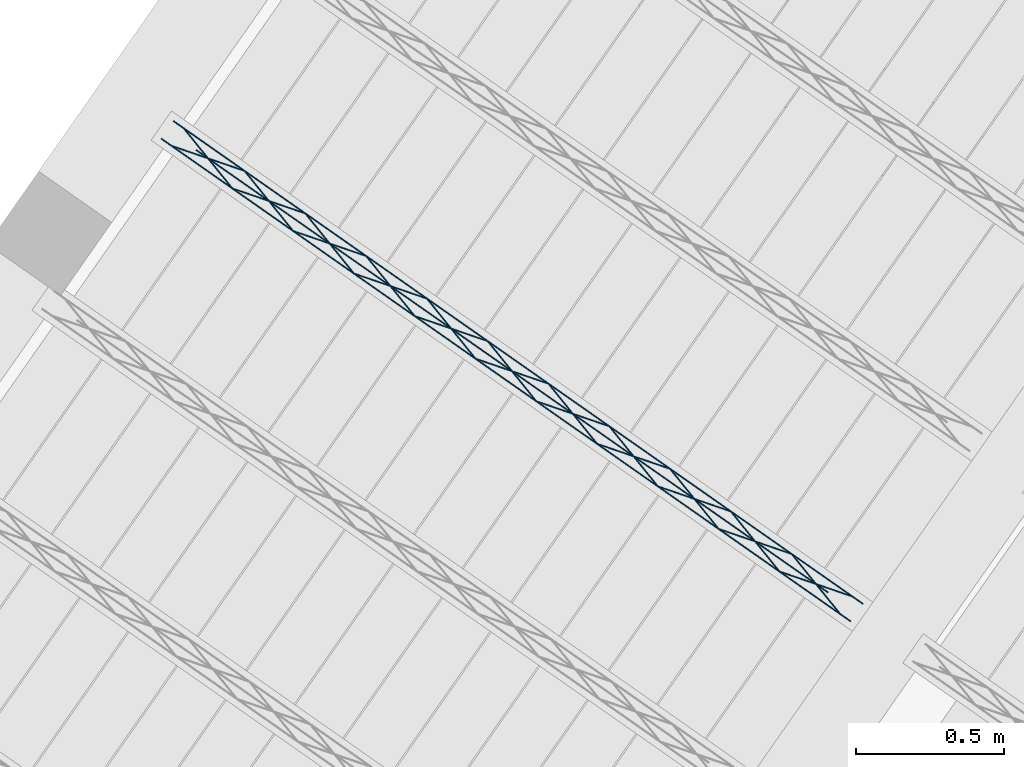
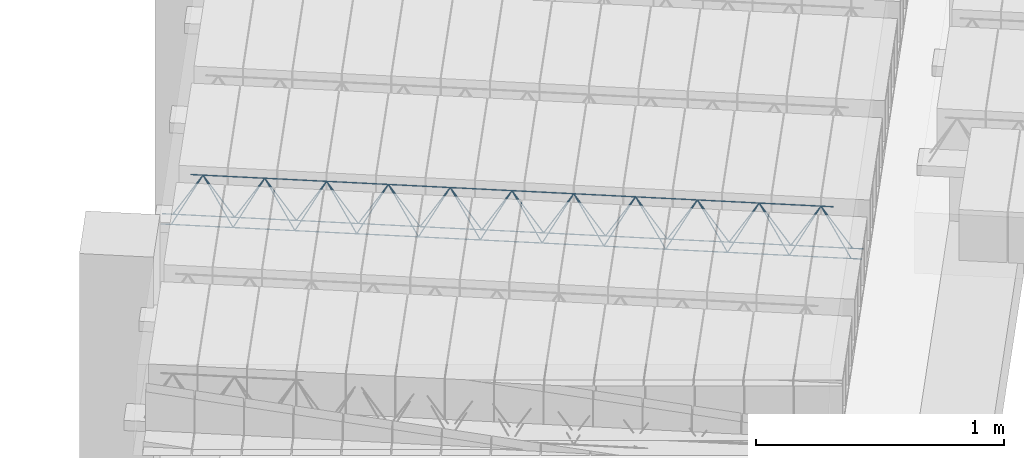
# One storey, part 18 of 80: 1 member.
"""IFC2X3 building model written with IfcOpenShell, lengths in metres."""

from ifc_helpers import new_model, entity, si_unit, converted_unit, derived_unit, direction, frame, origin, origin_2d_with_axis, place, context, subcontext, project, spatial, circle, extrude, type_object, element, save


model = new_model("IFC2X3")

# Units and contexts
model_context = context("Model", 3, precision=1e-05, world=origin(), true_north=direction((6.123031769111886e-17, 1.0)))
body_context = subcontext(model_context, "Body", "Model", "MODEL_VIEW")
ifc_project = project(units=[si_unit("LENGTHUNIT", "METRE"), si_unit("AREAUNIT", "SQUARE_METRE"), si_unit("VOLUMEUNIT", "CUBIC_METRE"), converted_unit("PLANEANGLEUNIT", "DEGREE", entity("IfcPlaneAngleMeasure", 0.017453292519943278), si_unit("PLANEANGLEUNIT", "RADIAN"), dimensions=[0, 0, 0, 0, 0, 0, 0]), si_unit("MASSUNIT", "GRAM", prefix="KILO"), derived_unit("MASSDENSITYUNIT", [(si_unit("MASSUNIT", "GRAM", prefix="KILO"), 1), (si_unit("LENGTHUNIT", "METRE"), -3)]), derived_unit("IONCONCENTRATIONUNIT", [(si_unit("MASSUNIT", "GRAM", prefix="KILO"), 1), (si_unit("LENGTHUNIT", "METRE"), -3)]), derived_unit("MOMENTOFINERTIAUNIT", [(si_unit("LENGTHUNIT", "METRE"), 4)]), si_unit("TIMEUNIT", "SECOND"), si_unit("FREQUENCYUNIT", "HERTZ"), si_unit("THERMODYNAMICTEMPERATUREUNIT", "DEGREE_CELSIUS"), derived_unit("THERMALTRANSMITTANCEUNIT", [(si_unit("MASSUNIT", "GRAM", prefix="KILO"), 1), (si_unit("THERMODYNAMICTEMPERATUREUNIT", "KELVIN"), -1), (si_unit("TIMEUNIT", "SECOND"), -3)]), derived_unit("THERMALCONDUCTANCEUNIT", [(si_unit("MASSUNIT", "GRAM", prefix="KILO"), 1), (si_unit("THERMODYNAMICTEMPERATUREUNIT", "KELVIN"), -1), (si_unit("TIMEUNIT", "SECOND"), -3), (si_unit("LENGTHUNIT", "METRE"), 1)]), derived_unit("VOLUMETRICFLOWRATEUNIT", [(si_unit("LENGTHUNIT", "METRE", prefix="DECI"), 3), (si_unit("TIMEUNIT", "SECOND"), -1)]), derived_unit("MASSFLOWRATEUNIT", [(si_unit("MASSUNIT", "GRAM", prefix="KILO"), 1), (si_unit("TIMEUNIT", "SECOND"), -1)]), derived_unit("ROTATIONALFREQUENCYUNIT", [(si_unit("TIMEUNIT", "SECOND"), -1)]), si_unit("ELECTRICCURRENTUNIT", "AMPERE"), si_unit("ELECTRICVOLTAGEUNIT", "VOLT"), si_unit("POWERUNIT", "WATT"), si_unit("FORCEUNIT", "NEWTON", prefix="KILO"), si_unit("ILLUMINANCEUNIT", "LUX"), si_unit("LUMINOUSFLUXUNIT", "LUMEN"), si_unit("LUMINOUSINTENSITYUNIT", "CANDELA"), si_unit("ENERGYUNIT", "JOULE"), derived_unit("USERDEFINED", [(si_unit("MASSUNIT", "GRAM", prefix="KILO"), -1), (si_unit("LENGTHUNIT", "METRE"), -2), (si_unit("TIMEUNIT", "SECOND"), 3), (si_unit("LUMINOUSFLUXUNIT", "LUMEN"), 1)]), derived_unit("USERDEFINED", [(si_unit("MASSUNIT", "GRAM", prefix="KILO"), 1), (si_unit("TIMEUNIT", "SECOND"), -3), (si_unit("LENGTHUNIT", "METRE"), 3), (si_unit("ELECTRICCURRENTUNIT", "AMPERE"), -2)]), derived_unit("SOUNDPOWERUNIT", [(si_unit("MASSUNIT", "GRAM", prefix="KILO"), 1), (si_unit("TIMEUNIT", "SECOND"), -3), (si_unit("LENGTHUNIT", "METRE"), 2)]), derived_unit("SOUNDPRESSUREUNIT", [(si_unit("MASSUNIT", "GRAM", prefix="KILO"), 1), (si_unit("LENGTHUNIT", "METRE"), -1), (si_unit("TIMEUNIT", "SECOND"), -2)]), derived_unit("LINEARVELOCITYUNIT", [(si_unit("LENGTHUNIT", "METRE"), 1), (si_unit("TIMEUNIT", "SECOND"), -1)]), si_unit("PRESSUREUNIT", "PASCAL"), derived_unit("USERDEFINED", [(si_unit("MASSUNIT", "GRAM", prefix="KILO"), 1), (si_unit("LENGTHUNIT", "METRE"), -2), (si_unit("TIMEUNIT", "SECOND"), -2)]), derived_unit("LINEARFORCEUNIT", [(si_unit("MASSUNIT", "GRAM", prefix="KILO"), 1), (si_unit("TIMEUNIT", "SECOND"), -2)]), derived_unit("PLANARFORCEUNIT", [(si_unit("MASSUNIT", "GRAM", prefix="KILO"), 1), (si_unit("LENGTHUNIT", "METRE"), -1), (si_unit("TIMEUNIT", "SECOND"), -2)]), derived_unit("SPECIFICHEATCAPACITYUNIT", [(si_unit("THERMODYNAMICTEMPERATUREUNIT", "KELVIN"), -1), (si_unit("LENGTHUNIT", "METRE"), 2), (si_unit("TIMEUNIT", "SECOND"), -2)]), derived_unit("HEATFLUXDENSITYUNIT", [(si_unit("MASSUNIT", "GRAM", prefix="KILO"), 1), (si_unit("TIMEUNIT", "SECOND"), -3)]), derived_unit("HEATINGVALUEUNIT", [(si_unit("LENGTHUNIT", "METRE"), 2), (si_unit("TIMEUNIT", "SECOND"), -2)]), derived_unit("VAPORPERMEABILITYUNIT", [(si_unit("LENGTHUNIT", "METRE"), -1), (si_unit("TIMEUNIT", "SECOND"), 1)]), derived_unit("DYNAMICVISCOSITYUNIT", [(si_unit("MASSUNIT", "GRAM", prefix="KILO"), 1), (si_unit("TIMEUNIT", "SECOND"), -1), (si_unit("LENGTHUNIT", "METRE"), -1)]), derived_unit("THERMALEXPANSIONCOEFFICIENTUNIT", [(si_unit("THERMODYNAMICTEMPERATUREUNIT", "KELVIN"), -1)]), derived_unit("MODULUSOFELASTICITYUNIT", [(si_unit("MASSUNIT", "GRAM", prefix="KILO"), 1), (si_unit("LENGTHUNIT", "METRE"), -1), (si_unit("TIMEUNIT", "SECOND"), -2)]), derived_unit("ISOTHERMALMOISTURECAPACITYUNIT", [(si_unit("MASSUNIT", "GRAM", prefix="KILO"), -1), (si_unit("LENGTHUNIT", "METRE"), 3)]), derived_unit("MOISTUREDIFFUSIVITYUNIT", [(si_unit("TIMEUNIT", "SECOND"), -1), (si_unit("LENGTHUNIT", "METRE"), 2)]), derived_unit("MASSPERLENGTHUNIT", [(si_unit("MASSUNIT", "GRAM", prefix="KILO"), 1), (si_unit("LENGTHUNIT", "METRE"), -1)]), derived_unit("THERMALRESISTANCEUNIT", [(si_unit("MASSUNIT", "GRAM", prefix="KILO"), -1), (si_unit("TIMEUNIT", "SECOND"), 3), (si_unit("THERMODYNAMICTEMPERATUREUNIT", "KELVIN"), 1)]), derived_unit("ACCELERATIONUNIT", [(si_unit("LENGTHUNIT", "METRE"), 1), (si_unit("TIMEUNIT", "SECOND"), -2)]), derived_unit("ANGULARVELOCITYUNIT", [(si_unit("TIMEUNIT", "SECOND"), -1), (si_unit("PLANEANGLEUNIT", "RADIAN"), 1)]), derived_unit("LINEARSTIFFNESSUNIT", [(si_unit("MASSUNIT", "GRAM", prefix="KILO"), 1), (si_unit("TIMEUNIT", "SECOND"), -2)]), derived_unit("WARPINGCONSTANTUNIT", [(si_unit("LENGTHUNIT", "METRE"), 6)]), derived_unit("LINEARMOMENTUNIT", [(si_unit("MASSUNIT", "GRAM", prefix="KILO"), 1), (si_unit("LENGTHUNIT", "METRE"), 1), (si_unit("TIMEUNIT", "SECOND"), -2)]), derived_unit("TORQUEUNIT", [(si_unit("MASSUNIT", "GRAM", prefix="KILO"), 1), (si_unit("LENGTHUNIT", "METRE"), 2), (si_unit("TIMEUNIT", "SECOND"), -2)])], contexts=[model_context])

# Site, building, storey
site_placement = place(None, origin())
site = spatial("IfcSite", under=ifc_project, at=site_placement, Name="Default", CompositionType="ELEMENT")
building_placement = place(site_placement, origin())
building = spatial("IfcBuilding", under=site, at=building_placement, CompositionType="ELEMENT")
storey_placement = place(building_placement, frame((0.0, 0.0, 95.94)))
storey = spatial("IfcBuildingStorey", under=building, at=storey_placement, Name="PB", CompositionType="ELEMENT", Elevation=95.94)

# Member
member_type = type_object("IfcMemberType", Name="Celosía (Vigueta 6 - Paño 2)", PredefinedType="NOTDEFINED")
member_placement = place(storey_placement, origin())
element("IfcMember", 1, at=member_placement, inside=storey, type_object=member_type, Name="Celosía (Vigueta 6 - Paño 2)", context=body_context, shape_type="SweptSolid", body=[
    extrude(circle(Radius=0.0025, at=origin_2d_with_axis()), frame((0.8264099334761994, 5.542649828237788, 2.8449999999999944), z_axis=(0.8191520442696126, -0.5735764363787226, 0.0), x_axis=(-0.5735764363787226, -0.8191520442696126, 0.0)), (0.0, 0.0, 1.0), 2.8366030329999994),
    extrude(circle(Radius=0.0025, at=origin_2d_with_axis()), frame((3.0737609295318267, 4.012985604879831, 3.069999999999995), z_axis=(-0.8191520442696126, 0.5735764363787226, 0.0), x_axis=(-0.5735764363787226, -0.8191520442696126, 0.0)), (0.0, 0.0, 1.0), 2.6),
    extrude(circle(Radius=0.0025, at=origin_2d_with_axis()), frame((3.1145485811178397, 3.940477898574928, 2.8449999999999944), z_axis=(-0.3145304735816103, 0.389334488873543, 0.8657304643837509), x_axis=(-0.7778747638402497, -0.6284193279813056, 0.0)), (0.0, 0.0, 1.0), 0.2598961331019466),
    extrude(circle(Radius=0.0025, at=origin_2d_with_axis()), frame((2.909760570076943, 4.08387200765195, 2.8449999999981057), z_axis=(0.47343050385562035, -0.1624017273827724, 0.8657304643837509), x_axis=(-0.3244721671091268, -0.9458952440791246, 0.0)), (0.0, 0.0, 1.0), 0.25989613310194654),
    extrude(circle(Radius=0.0025, at=origin_2d_with_axis()), frame((2.9097605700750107, 4.083872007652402, 2.8449999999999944), z_axis=(-0.3145304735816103, 0.389334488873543, 0.8657304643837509), x_axis=(-0.7778747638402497, -0.6284193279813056, 0.0)), (0.0, 0.0, 1.0), 0.2598961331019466),
    extrude(circle(Radius=0.0025, at=origin_2d_with_axis()), frame((2.70497255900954, 4.22726611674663, 2.8449999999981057), z_axis=(0.47343050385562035, -0.1624017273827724, 0.8657304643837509), x_axis=(-0.3244721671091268, -0.9458952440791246, 0.0)), (0.0, 0.0, 1.0), 0.25989613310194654),
    extrude(circle(Radius=0.0025, at=origin_2d_with_axis()), frame((2.704972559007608, 4.227266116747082, 2.8449999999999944), z_axis=(-0.3145304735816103, 0.389334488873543, 0.8657304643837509), x_axis=(-0.7778747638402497, -0.6284193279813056, 0.0)), (0.0, 0.0, 1.0), 0.2598961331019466),
    extrude(circle(Radius=0.0025, at=origin_2d_with_axis()), frame((2.500184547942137, 4.370660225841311, 2.8449999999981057), z_axis=(0.47343050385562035, -0.1624017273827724, 0.8657304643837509), x_axis=(-0.3244721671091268, -0.9458952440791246, 0.0)), (0.0, 0.0, 1.0), 0.25989613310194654),
    extrude(circle(Radius=0.0025, at=origin_2d_with_axis()), frame((2.5001845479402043, 4.370660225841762, 2.8449999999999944), z_axis=(-0.3145304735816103, 0.389334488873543, 0.8657304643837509), x_axis=(-0.7778747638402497, -0.6284193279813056, 0.0)), (0.0, 0.0, 1.0), 0.2598961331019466),
    extrude(circle(Radius=0.0025, at=origin_2d_with_axis()), frame((2.295396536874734, 4.514054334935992, 2.8449999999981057), z_axis=(0.47343050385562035, -0.1624017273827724, 0.8657304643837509), x_axis=(-0.3244721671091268, -0.9458952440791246, 0.0)), (0.0, 0.0, 1.0), 0.25989613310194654),
    extrude(circle(Radius=0.0025, at=origin_2d_with_axis()), frame((2.2953965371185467, 4.514054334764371, 2.8449999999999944), z_axis=(-0.3145304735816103, 0.389334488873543, 0.8657304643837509), x_axis=(-0.7778747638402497, -0.6284193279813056, 0.0)), (0.0, 0.0, 1.0), 0.2598961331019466),
    extrude(circle(Radius=0.0025, at=origin_2d_with_axis()), frame((2.0906085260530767, 4.657448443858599, 2.8449999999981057), z_axis=(0.47343050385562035, -0.1624017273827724, 0.8657304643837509), x_axis=(-0.3244721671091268, -0.9458952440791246, 0.0)), (0.0, 0.0, 1.0), 0.25989613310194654),
    extrude(circle(Radius=0.0025, at=origin_2d_with_axis()), frame((2.0906085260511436, 4.657448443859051, 2.8449999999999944), z_axis=(-0.3145304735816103, 0.389334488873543, 0.8657304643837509), x_axis=(-0.7778747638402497, -0.6284193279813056, 0.0)), (0.0, 0.0, 1.0), 0.2598961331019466),
    extrude(circle(Radius=0.0025, at=origin_2d_with_axis()), frame((1.8858205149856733, 4.80084255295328, 2.8449999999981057), z_axis=(0.47343050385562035, -0.1624017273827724, 0.8657304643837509), x_axis=(-0.3244721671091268, -0.9458952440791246, 0.0)), (0.0, 0.0, 1.0), 0.25989613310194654),
    extrude(circle(Radius=0.0025, at=origin_2d_with_axis()), frame((1.8858205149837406, 4.800842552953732, 2.8449999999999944), z_axis=(-0.3145304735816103, 0.389334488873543, 0.8657304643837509), x_axis=(-0.7778747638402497, -0.6284193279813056, 0.0)), (0.0, 0.0, 1.0), 0.2598961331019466),
    extrude(circle(Radius=0.0025, at=origin_2d_with_axis()), frame((1.6810325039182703, 4.9442366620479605, 2.8449999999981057), z_axis=(0.47343050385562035, -0.1624017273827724, 0.8657304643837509), x_axis=(-0.3244721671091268, -0.9458952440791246, 0.0)), (0.0, 0.0, 1.0), 0.25989613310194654),
    extrude(circle(Radius=0.0025, at=origin_2d_with_axis()), frame((1.6810325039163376, 4.944236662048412, 2.8449999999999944), z_axis=(-0.3145304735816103, 0.389334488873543, 0.8657304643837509), x_axis=(-0.7778747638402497, -0.6284193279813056, 0.0)), (0.0, 0.0, 1.0), 0.2598961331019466),
    extrude(circle(Radius=0.0025, at=origin_2d_with_axis()), frame((1.4762444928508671, 5.08763077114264, 2.8449999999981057), z_axis=(0.47343050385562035, -0.1624017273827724, 0.8657304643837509), x_axis=(-0.3244721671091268, -0.9458952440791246, 0.0)), (0.0, 0.0, 1.0), 0.25989613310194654),
    extrude(circle(Radius=0.0025, at=origin_2d_with_axis()), frame((1.4762444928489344, 5.087630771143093, 2.8449999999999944), z_axis=(-0.3145304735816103, 0.389334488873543, 0.8657304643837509), x_axis=(-0.7778747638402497, -0.6284193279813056, 0.0)), (0.0, 0.0, 1.0), 0.2598961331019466),
    extrude(circle(Radius=0.0025, at=origin_2d_with_axis()), frame((1.271456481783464, 5.231024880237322, 2.8449999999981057), z_axis=(0.47343050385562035, -0.1624017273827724, 0.8657304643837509), x_axis=(-0.3244721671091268, -0.9458952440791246, 0.0)), (0.0, 0.0, 1.0), 0.25989613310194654),
    extrude(circle(Radius=0.0025, at=origin_2d_with_axis()), frame((1.271456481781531, 5.231024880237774, 2.8449999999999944), z_axis=(-0.3145304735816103, 0.389334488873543, 0.8657304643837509), x_axis=(-0.7778747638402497, -0.6284193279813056, 0.0)), (0.0, 0.0, 1.0), 0.2598961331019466),
    extrude(circle(Radius=0.0025, at=origin_2d_with_axis()), frame((1.0666684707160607, 5.3744189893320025, 2.8449999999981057), z_axis=(0.47343050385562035, -0.1624017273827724, 0.8657304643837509), x_axis=(-0.3244721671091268, -0.9458952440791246, 0.0)), (0.0, 0.0, 1.0), 0.25989613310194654),
    extrude(circle(Radius=0.0025, at=origin_2d_with_axis()), frame((1.0666684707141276, 5.374418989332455, 2.8449999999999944), z_axis=(-0.3145304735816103, 0.389334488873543, 0.8657304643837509), x_axis=(-0.7778747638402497, -0.6284193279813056, 0.0)), (0.0, 0.0, 1.0), 0.2598961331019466),
    extrude(circle(Radius=0.0025, at=origin_2d_with_axis()), frame((0.8618804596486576, 5.517813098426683, 2.8449999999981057), z_axis=(0.47343050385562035, -0.1624017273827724, 0.8657304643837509), x_axis=(-0.3244721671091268, -0.9458952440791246, 0.0)), (0.0, 0.0, 1.0), 0.25989613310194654),
    extrude(circle(Radius=0.0025, at=origin_2d_with_axis()), frame((0.8677074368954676, 5.601628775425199, 2.8449999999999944), z_axis=(0.8191520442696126, -0.5735764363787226, 0.0), x_axis=(-0.5735764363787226, -0.8191520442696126, 0.0)), (0.0, 0.0, 1.0), 2.8366030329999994),
    extrude(circle(Radius=0.0025, at=origin_2d_with_axis()), frame((3.155846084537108, 3.9994568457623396, 2.8449999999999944), z_axis=(-0.47343050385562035, 0.1624017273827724, 0.8657304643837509), x_axis=(-0.3244721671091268, -0.9458952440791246, 0.0)), (0.0, 0.0, 1.0), 0.25989613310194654),
    extrude(circle(Radius=0.0025, at=origin_2d_with_axis()), frame((2.9510580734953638, 4.142850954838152, 2.8449999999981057), z_axis=(0.3145304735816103, -0.389334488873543, 0.8657304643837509), x_axis=(-0.7778747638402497, -0.6284193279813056, 0.0)), (0.0, 0.0, 1.0), 0.2598961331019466),
    extrude(circle(Radius=0.0025, at=origin_2d_with_axis()), frame((2.951058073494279, 4.142850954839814, 2.8449999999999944), z_axis=(-0.47343050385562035, 0.1624017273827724, 0.8657304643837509), x_axis=(-0.3244721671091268, -0.9458952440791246, 0.0)), (0.0, 0.0, 1.0), 0.25989613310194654),
    extrude(circle(Radius=0.0025, at=origin_2d_with_axis()), frame((2.746270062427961, 4.2862450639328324, 2.8449999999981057), z_axis=(0.3145304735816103, -0.389334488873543, 0.8657304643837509), x_axis=(-0.7778747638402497, -0.6284193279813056, 0.0)), (0.0, 0.0, 1.0), 0.2598961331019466),
    extrude(circle(Radius=0.0025, at=origin_2d_with_axis()), frame((2.746270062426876, 4.286245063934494, 2.8449999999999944), z_axis=(-0.47343050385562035, 0.1624017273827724, 0.8657304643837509), x_axis=(-0.3244721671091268, -0.9458952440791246, 0.0)), (0.0, 0.0, 1.0), 0.25989613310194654),
    extrude(circle(Radius=0.0025, at=origin_2d_with_axis()), frame((2.541482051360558, 4.429639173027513, 2.8449999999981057), z_axis=(0.3145304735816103, -0.389334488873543, 0.8657304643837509), x_axis=(-0.7778747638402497, -0.6284193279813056, 0.0)), (0.0, 0.0, 1.0), 0.2598961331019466),
    extrude(circle(Radius=0.0025, at=origin_2d_with_axis()), frame((2.5414820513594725, 4.429639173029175, 2.8449999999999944), z_axis=(-0.47343050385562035, 0.1624017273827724, 0.8657304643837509), x_axis=(-0.3244721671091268, -0.9458952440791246, 0.0)), (0.0, 0.0, 1.0), 0.25989613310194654),
    extrude(circle(Radius=0.0025, at=origin_2d_with_axis()), frame((2.3366940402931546, 4.573033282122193, 2.8449999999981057), z_axis=(0.3145304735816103, -0.389334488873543, 0.8657304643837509), x_axis=(-0.7778747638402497, -0.6284193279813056, 0.0)), (0.0, 0.0, 1.0), 0.2598961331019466),
    extrude(circle(Radius=0.0025, at=origin_2d_with_axis()), frame((2.336694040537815, 4.5730332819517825, 2.8449999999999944), z_axis=(-0.47343050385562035, 0.1624017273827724, 0.8657304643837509), x_axis=(-0.3244721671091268, -0.9458952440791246, 0.0)), (0.0, 0.0, 1.0), 0.25989613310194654),
    extrude(circle(Radius=0.0025, at=origin_2d_with_axis()), frame((2.131906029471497, 4.716427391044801, 2.8449999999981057), z_axis=(0.3145304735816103, -0.389334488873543, 0.8657304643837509), x_axis=(-0.7778747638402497, -0.6284193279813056, 0.0)), (0.0, 0.0, 1.0), 0.2598961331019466),
    extrude(circle(Radius=0.0025, at=origin_2d_with_axis()), frame((2.1319060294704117, 4.716427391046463, 2.8449999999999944), z_axis=(-0.47343050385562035, 0.1624017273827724, 0.8657304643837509), x_axis=(-0.3244721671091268, -0.9458952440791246, 0.0)), (0.0, 0.0, 1.0), 0.25989613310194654),
    extrude(circle(Radius=0.0025, at=origin_2d_with_axis()), frame((1.9271180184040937, 4.859821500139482, 2.8449999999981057), z_axis=(0.3145304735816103, -0.389334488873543, 0.8657304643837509), x_axis=(-0.7778747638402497, -0.6284193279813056, 0.0)), (0.0, 0.0, 1.0), 0.2598961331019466),
    extrude(circle(Radius=0.0025, at=origin_2d_with_axis()), frame((1.9271180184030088, 4.859821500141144, 2.8449999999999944), z_axis=(-0.47343050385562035, 0.1624017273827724, 0.8657304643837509), x_axis=(-0.3244721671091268, -0.9458952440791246, 0.0)), (0.0, 0.0, 1.0), 0.25989613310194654),
    extrude(circle(Radius=0.0025, at=origin_2d_with_axis()), frame((1.722330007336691, 5.003215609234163, 2.8449999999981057), z_axis=(0.3145304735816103, -0.389334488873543, 0.8657304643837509), x_axis=(-0.7778747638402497, -0.6284193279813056, 0.0)), (0.0, 0.0, 1.0), 0.2598961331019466),
    extrude(circle(Radius=0.0025, at=origin_2d_with_axis()), frame((1.7223300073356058, 5.0032156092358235, 2.8449999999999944), z_axis=(-0.47343050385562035, 0.1624017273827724, 0.8657304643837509), x_axis=(-0.3244721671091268, -0.9458952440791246, 0.0)), (0.0, 0.0, 1.0), 0.25989613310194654),
    extrude(circle(Radius=0.0025, at=origin_2d_with_axis()), frame((1.5175419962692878, 5.146609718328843, 2.8449999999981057), z_axis=(0.3145304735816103, -0.389334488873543, 0.8657304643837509), x_axis=(-0.7778747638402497, -0.6284193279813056, 0.0)), (0.0, 0.0, 1.0), 0.2598961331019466),
    extrude(circle(Radius=0.0025, at=origin_2d_with_axis()), frame((1.5175419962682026, 5.146609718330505, 2.8449999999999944), z_axis=(-0.47343050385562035, 0.1624017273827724, 0.8657304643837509), x_axis=(-0.3244721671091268, -0.9458952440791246, 0.0)), (0.0, 0.0, 1.0), 0.25989613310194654),
    extrude(circle(Radius=0.0025, at=origin_2d_with_axis()), frame((1.3127539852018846, 5.290003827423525, 2.8449999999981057), z_axis=(0.3145304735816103, -0.389334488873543, 0.8657304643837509), x_axis=(-0.7778747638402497, -0.6284193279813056, 0.0)), (0.0, 0.0, 1.0), 0.2598961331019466),
    extrude(circle(Radius=0.0025, at=origin_2d_with_axis()), frame((1.3127539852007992, 5.290003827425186, 2.8449999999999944), z_axis=(-0.47343050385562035, 0.1624017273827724, 0.8657304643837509), x_axis=(-0.3244721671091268, -0.9458952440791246, 0.0)), (0.0, 0.0, 1.0), 0.25989613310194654),
    extrude(circle(Radius=0.0025, at=origin_2d_with_axis()), frame((1.1079659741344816, 5.433397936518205, 2.8449999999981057), z_axis=(0.3145304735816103, -0.389334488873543, 0.8657304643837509), x_axis=(-0.7778747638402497, -0.6284193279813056, 0.0)), (0.0, 0.0, 1.0), 0.2598961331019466),
    extrude(circle(Radius=0.0025, at=origin_2d_with_axis()), frame((1.1079659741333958, 5.4333979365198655, 2.8449999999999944), z_axis=(-0.47343050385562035, 0.1624017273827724, 0.8657304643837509), x_axis=(-0.3244721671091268, -0.9458952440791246, 0.0)), (0.0, 0.0, 1.0), 0.25989613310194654),
    extrude(circle(Radius=0.0025, at=origin_2d_with_axis()), frame((0.9031779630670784, 5.576792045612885, 2.8449999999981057), z_axis=(0.3145304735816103, -0.389334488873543, 0.8657304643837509), x_axis=(-0.7778747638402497, -0.6284193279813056, 0.0)), (0.0, 0.0, 1.0), 0.2598961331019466),
])

save(model, "model.ifc")
